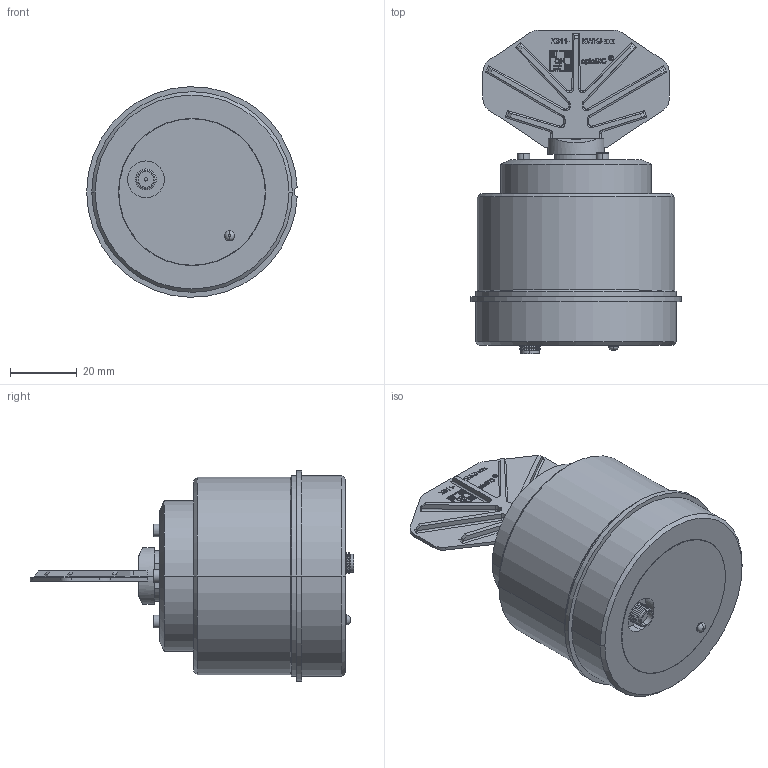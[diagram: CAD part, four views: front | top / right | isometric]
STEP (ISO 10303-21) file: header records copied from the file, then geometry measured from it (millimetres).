
FILE_DESCRIPTION (( 'STEP AP214' ), '1' );
FILE_NAME ('RLAX_A30_SiC.STEP', '2025-01-08T12:58:11', ( '' ), ( '' ), 'SwSTEP 2.0', 'SolidWorks 2011', '' );
FILE_SCHEMA (( 'AUTOMOTIVE_DESIGN' ));
Length unit declared in the file: millimetre
Products named in the file (5): A30N_SiC_MirrorX; socket head cap screw_iso_ISO 4762 M2 x 6 --- 6N; RLA_Draw15_0; RLA_solid; RLAX_A30_SiC
Assembly tree (5 placements, depth 2):
  RLAX_A30_SiC
    socket head cap screw_iso_ISO 4762 M2 x 6 --- 6N  x2
    A30N_SiC_MirrorX
    RLA_Draw15_0
    RLA_solid
Bounding box: 62.97 x 96.9 x 62.98 mm (x, y, z)
Volume: 144673.1 mm3; surface area: 21720.1 mm2
Topology: 5 solids, 5 shells, 1403 faces, 3500 edges, 2284 vertices
Faces by surface type: plane 1004, bspline 200, cylinder 113, cone 70, torus 16
Entity records: 63994 total; most frequent: CARTESIAN_POINT 18353, ORIENTED_EDGE 6864, DIRECTION 5674, EDGE_CURVE 3432, VECTOR 2718, LINE 2718, VERTEX_POINT 2251, EDGE_LOOP 1567
